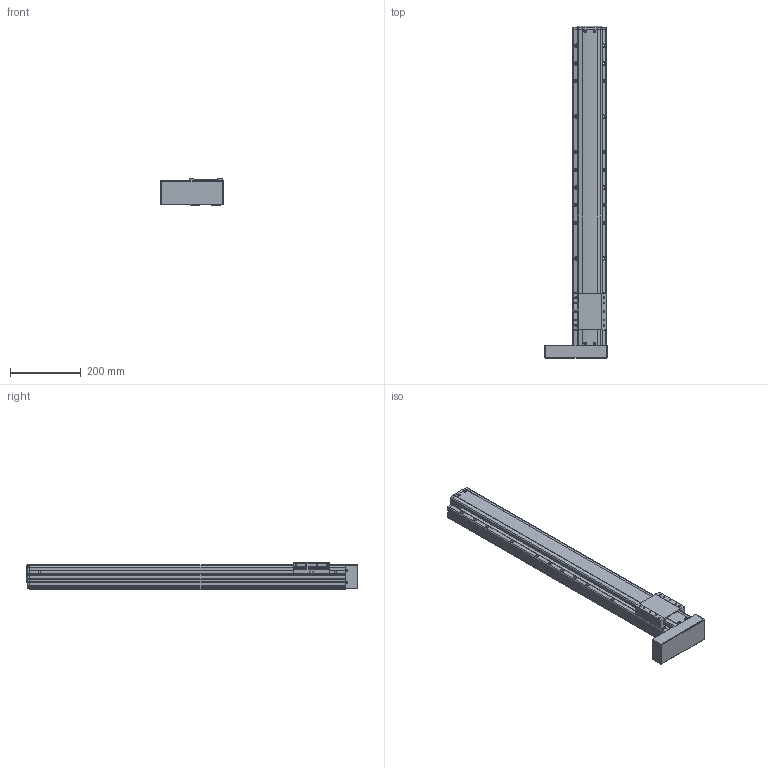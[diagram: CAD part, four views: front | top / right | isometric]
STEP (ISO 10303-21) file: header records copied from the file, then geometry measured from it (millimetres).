
FILE_DESCRIPTION(('STEP AP214'),'1');
FILE_NAME('Z:/Web/3D/PSA95/STP/PSA95-700 (3D)/PSA95ㅁㅁ-700PL.stp','2014-07-03T00:39:43',(' '),(' '),'Spatial InterOp 3D',' ',' ');
FILE_SCHEMA(('automotive_design'));
Length unit declared in the file: millimetre
Products named in the file (23): BASE; RRCV; 스크루 : Round - M4.0 x 10.0; 너트 : Square - M10.0 x 220.7419; RR1500; FRCV-090; 스크루 : Round - M4.0 x 6.0; SLBL-PA90; MOTOR PLATE COVER; 스크루 : Round - M3.0 x 6.0
Bounding box: 179.13 x 936.5 x 74 mm (x, y, z)
Volume: 5259714 mm3; surface area: 527094.3 mm2
Topology: 23 solids, 23 shells, 1963 faces, 5278 edges, 3354 vertices
Faces by surface type: plane 1059, cylinder 619, cone 205, sphere 42, bspline 24, torus 14
Entity records: 79198 total; most frequent: CARTESIAN_POINT 13705, DIRECTION 10380, ORIENTED_EDGE 10268, EDGE_CURVE 5134, AXIS2_PLACEMENT_3D 3463, LINE 3454, VECTOR 3454, VERTEX_POINT 3354
